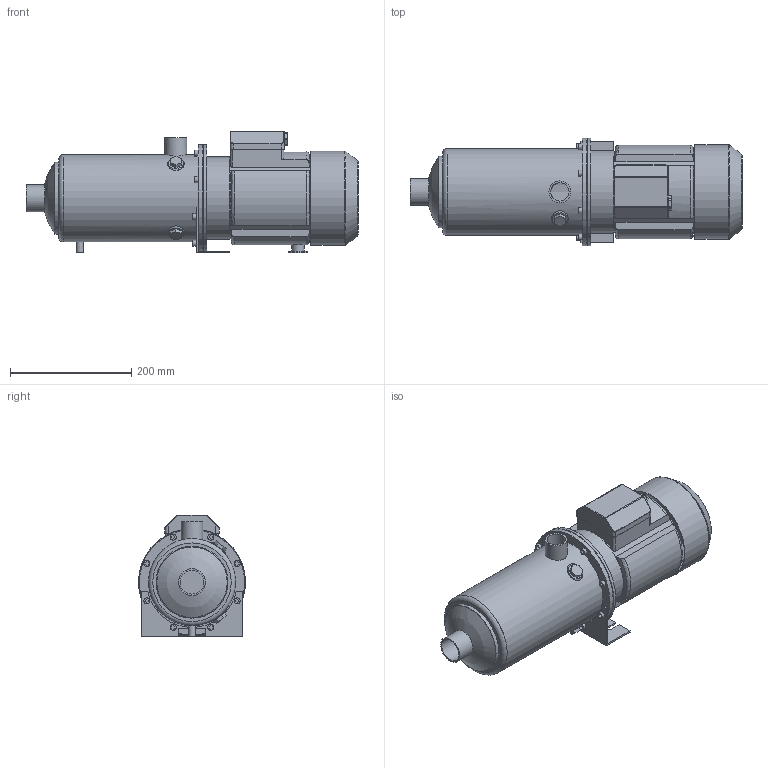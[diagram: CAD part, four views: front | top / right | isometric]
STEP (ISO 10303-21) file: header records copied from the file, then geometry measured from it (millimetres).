
FILE_DESCRIPTION(/* description */ ('Unknown'),/* implementation_level */ '2;1');
FILE_NAME(/* name */ 'MH 3 [9] T',/* time_stamp */ '2026-07-10T14:55:41+02:00',/* author */ ('Unknown'),/* organization */ ('Unknown'),/* preprocessor_version */ 'ST-DEVELOPER v20',/* originating_system */ 'Solid Edge',/* authorisation */ 'Unknown');
FILE_SCHEMA (('AUTOMOTIVE_DESIGN {1 0 10303 214 3 1 1}'));
Length unit declared in the file: millimetre
Products named in the file (10): MH 3 [9] T; Flangia motore Tonda M80; Corpo MH 3-5 [9]; Mot_Wendy_MEC80_11-15_T; carcassa MEC 80-Wendy; Copriventola MEC 80-Wendy; Basetta MEC 80 T-Wendy_new; Piedino MEC 80 int.90; Staffa 3-5-9 int.90
Assembly tree (8 placements, depth 3):
  MH 3 [9] T
    Flangia motore Tonda M80
    Corpo MH 3-5 [9]
    Mot_Wendy_MEC80_11-15_T
      carcassa MEC 80-Wendy
      Copriventola MEC 80-Wendy
      Basetta MEC 80 T-Wendy_new
    Piedino MEC 80 int.90
    Staffa 3-5-9 int.90
  (unnamed)
Bounding box: 547.1 x 176.5 x 200.5 mm (x, y, z)
Volume: 2109401.9 mm3; surface area: 653200.4 mm2
Topology: 8 solids, 8 shells, 278 faces, 651 edges, 432 vertices
Faces by surface type: plane 164, cylinder 75, torus 19, cone 14, bspline 4, sphere 2
Full cylindrical faces by diameter (mm): 7 x4, 10 x9, 12 x1, 13.5 x1, 17.5 x1, 21 x1, 30 x1, 30.291 x1, 36 x1, 38.952 x1, 44.5 x1, 116.1 x1, 118.5 x1, 125 x1, 130 x3, 134 x1, 136 x1, 141.1 x1, 143.5 x1, 153.5 x1, 155.5 x1, 173.5 x1, 174.1 x1, 176.5 x2
Entity records: 8922 total; most frequent: CARTESIAN_POINT 1612, DIRECTION 1268, ORIENTED_EDGE 1122, EDGE_CURVE 561, AXIS2_PLACEMENT_3D 464, VERTEX_POINT 400, EDGE_LOOP 389, FACE_BOUND 389
